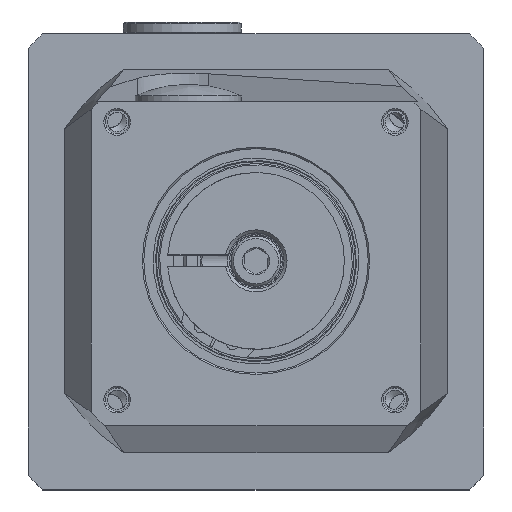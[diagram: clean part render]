
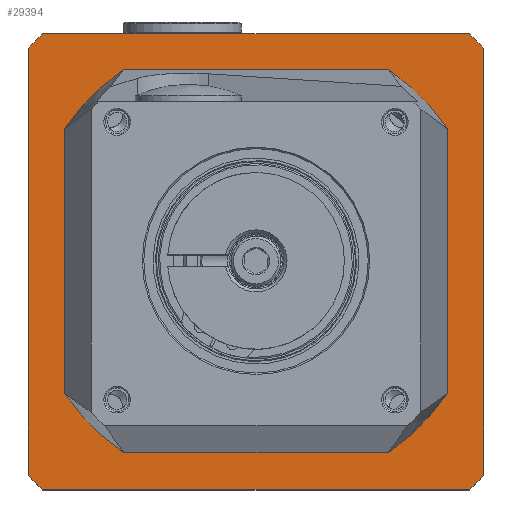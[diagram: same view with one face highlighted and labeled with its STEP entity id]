
A CAD part, top view. The second image highlights one B-rep face of the part: STEP entity #29394.
In plain terms, the highlighted planar face has unit normal (0, 0, 1) as drawn and (0, 0, -1) by its records, which use the part's own axes.
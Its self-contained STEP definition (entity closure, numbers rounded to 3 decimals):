
#160 = DIRECTION ( 'NONE',  ( -1., 0., 0. ) ) ;
#654 = DIRECTION ( 'NONE',  ( 0., 0., -1. ) ) ;
#917 = EDGE_CURVE ( 'NONE', #38667, #6114, #24434, .T. ) ;
#1152 = CARTESIAN_POINT ( 'NONE',  ( -32.25, 0., 0. ) ) ;
#1284 = EDGE_CURVE ( 'NONE', #39739, #34020, #27553, .T. ) ;
#1794 = CARTESIAN_POINT ( 'NONE',  ( -38.7, -36.212, 0. ) ) ;
#2094 = CARTESIAN_POINT ( 'NONE',  ( -36.212, -38.7, 0. ) ) ;
#2225 = CARTESIAN_POINT ( 'NONE',  ( 36.212, -38.7, 0. ) ) ;
#3725 = FACE_OUTER_BOUND ( 'NONE', #10260, .T. ) ;
#3933 = PLANE ( 'NONE',  #9259 ) ;
#4239 = CIRCLE ( 'NONE', #37165, 53. ) ;
#4630 = VERTEX_POINT ( 'NONE', #2225 ) ;
#4667 = CARTESIAN_POINT ( 'NONE',  ( 0., 0., 0. ) ) ;
#5041 = DIRECTION ( 'NONE',  ( 0., 0., -1. ) ) ;
#5048 = LINE ( 'NONE', #8583, #15479 ) ;
#5504 = EDGE_CURVE ( 'NONE', #34020, #28311, #4239, .T. ) ;
#6056 = EDGE_CURVE ( 'NONE', #28311, #6114, #20119, .T. ) ;
#6114 = VERTEX_POINT ( 'NONE', #31277 ) ;
#7081 = VECTOR ( 'NONE', #160, 1000. ) ;
#7216 = DIRECTION ( 'NONE',  ( 0., 0., -1. ) ) ;
#7577 = CARTESIAN_POINT ( 'NONE',  ( 38.7, -38.7, 0. ) ) ;
#7732 = EDGE_CURVE ( 'NONE', #19995, #9526, #41390, .T. ) ;
#7873 = CARTESIAN_POINT ( 'NONE',  ( -38.7, -38.7, 0. ) ) ;
#8583 = CARTESIAN_POINT ( 'NONE',  ( -38.7, -38.7, 0. ) ) ;
#9259 = AXIS2_PLACEMENT_3D ( 'NONE', #30700, #654, #27424 ) ;
#9526 = VERTEX_POINT ( 'NONE', #1794 ) ;
#10256 = DIRECTION ( 'NONE',  ( -1., 0., 0. ) ) ;
#10260 = EDGE_LOOP ( 'NONE', ( #32966, #27809, #43041, #32824, #12109, #21219, #27219, #14466 ) ) ;
#10603 = AXIS2_PLACEMENT_3D ( 'NONE', #32149, #11152, #14441 ) ;
#10724 = DIRECTION ( 'NONE',  ( 0., -1., 0. ) ) ;
#11152 = DIRECTION ( 'NONE',  ( 0., 0., -1. ) ) ;
#11734 = CARTESIAN_POINT ( 'NONE',  ( -38.7, 36.212, 0. ) ) ;
#11794 = AXIS2_PLACEMENT_3D ( 'NONE', #37673, #7216, #10256 ) ;
#12109 = ORIENTED_EDGE ( 'NONE', *, *, #1284, .F. ) ;
#14441 = DIRECTION ( 'NONE',  ( -1., 0., 0. ) ) ;
#14466 = ORIENTED_EDGE ( 'NONE', *, *, #7732, .T. ) ;
#14924 = CARTESIAN_POINT ( 'NONE',  ( 0., 0., 0. ) ) ;
#15395 = EDGE_CURVE ( 'NONE', #41742, #41742, #33303, .T. ) ;
#15479 = VECTOR ( 'NONE', #18457, 1000. ) ;
#16652 = EDGE_LOOP ( 'NONE', ( #27510 ) ) ;
#18073 = DIRECTION ( 'NONE',  ( 0., 0., 1. ) ) ;
#18457 = DIRECTION ( 'NONE',  ( 1., 0., 0. ) ) ;
#19667 = CARTESIAN_POINT ( 'NONE',  ( 36.212, 38.7, 0. ) ) ;
#19850 = CARTESIAN_POINT ( 'NONE',  ( 38.7, -36.212, 0. ) ) ;
#19995 = VERTEX_POINT ( 'NONE', #2094 ) ;
#20119 = LINE ( 'NONE', #42972, #7081 ) ;
#20832 = LINE ( 'NONE', #7873, #42144 ) ;
#20876 = VECTOR ( 'NONE', #36970, 1000. ) ;
#21219 = ORIENTED_EDGE ( 'NONE', *, *, #26952, .T. ) ;
#21508 = DIRECTION ( 'NONE',  ( -1., 0., 0. ) ) ;
#22216 = DIRECTION ( 'NONE',  ( 1., 0., 0. ) ) ;
#22491 = CIRCLE ( 'NONE', #10603, 53. ) ;
#24434 = CIRCLE ( 'NONE', #11794, 53. ) ;
#24942 = CARTESIAN_POINT ( 'NONE',  ( 0., 0., 0. ) ) ;
#26808 = EDGE_CURVE ( 'NONE', #19995, #4630, #5048, .T. ) ;
#26952 = EDGE_CURVE ( 'NONE', #39739, #4630, #22491, .T. ) ;
#27005 = EDGE_CURVE ( 'NONE', #38667, #9526, #20832, .T. ) ;
#27219 = ORIENTED_EDGE ( 'NONE', *, *, #26808, .F. ) ;
#27424 = DIRECTION ( 'NONE',  ( -1., 0., 0. ) ) ;
#27510 = ORIENTED_EDGE ( 'NONE', *, *, #15395, .F. ) ;
#27553 = LINE ( 'NONE', #7577, #20876 ) ;
#27809 = ORIENTED_EDGE ( 'NONE', *, *, #917, .T. ) ;
#28311 = VERTEX_POINT ( 'NONE', #19667 ) ;
#29394 = ADVANCED_FACE ( 'NONE', ( #33778, #3725 ), #3933, .T. ) ;
#30379 = CARTESIAN_POINT ( 'NONE',  ( 38.7, 36.212, 0. ) ) ;
#30700 = CARTESIAN_POINT ( 'NONE',  ( 0., 0., 0. ) ) ;
#31277 = CARTESIAN_POINT ( 'NONE',  ( -36.212, 38.7, 0. ) ) ;
#31537 = DIRECTION ( 'NONE',  ( 0., 0., -1. ) ) ;
#31551 = AXIS2_PLACEMENT_3D ( 'NONE', #14924, #5041, #21508 ) ;
#32149 = CARTESIAN_POINT ( 'NONE',  ( 0., 0., 0. ) ) ;
#32824 = ORIENTED_EDGE ( 'NONE', *, *, #5504, .F. ) ;
#32966 = ORIENTED_EDGE ( 'NONE', *, *, #27005, .F. ) ;
#33303 = CIRCLE ( 'NONE', #36122, 32.25 ) ;
#33778 = FACE_BOUND ( 'NONE', #16652, .T. ) ;
#34020 = VERTEX_POINT ( 'NONE', #30379 ) ;
#35473 = DIRECTION ( 'NONE',  ( -1., 0., 0. ) ) ;
#36122 = AXIS2_PLACEMENT_3D ( 'NONE', #24942, #31537, #35473 ) ;
#36970 = DIRECTION ( 'NONE',  ( 0., 1., 0. ) ) ;
#37165 = AXIS2_PLACEMENT_3D ( 'NONE', #4667, #18073, #22216 ) ;
#37673 = CARTESIAN_POINT ( 'NONE',  ( 0., 0., 0. ) ) ;
#38667 = VERTEX_POINT ( 'NONE', #11734 ) ;
#39739 = VERTEX_POINT ( 'NONE', #19850 ) ;
#41390 = CIRCLE ( 'NONE', #31551, 53. ) ;
#41742 = VERTEX_POINT ( 'NONE', #1152 ) ;
#42144 = VECTOR ( 'NONE', #10724, 1000. ) ;
#42972 = CARTESIAN_POINT ( 'NONE',  ( -38.7, 38.7, 0. ) ) ;
#43041 = ORIENTED_EDGE ( 'NONE', *, *, #6056, .F. ) ;
